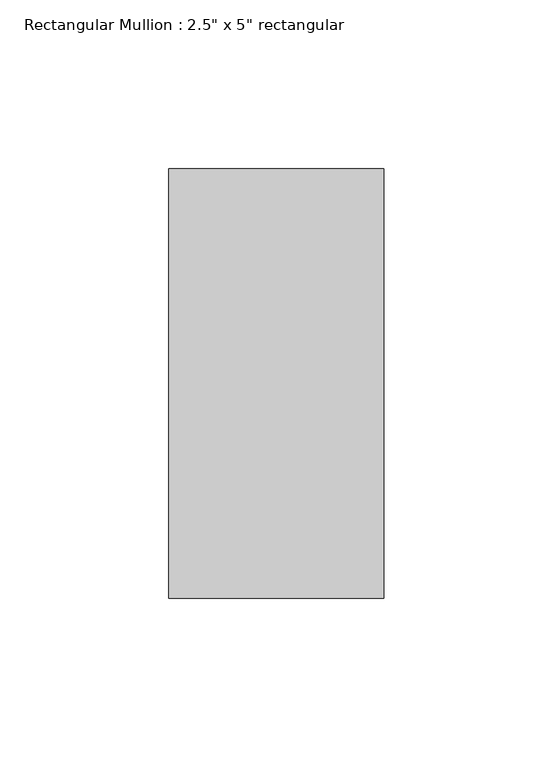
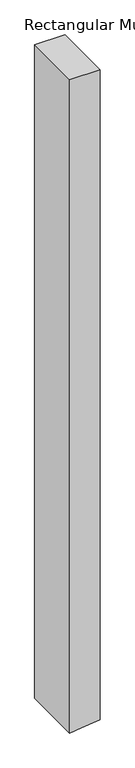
"""IFC4 building model written with IfcOpenShell, lengths in millimetres: member geometry."""

from ifc_helpers import new_model, si_unit, frame, origin, place, context, project, spatial, polyline, outline, extrude, source, transform, mapped, element, save


def member_7a136f0b(model_context):
    return source(origin(), model_context, "Body", "SweptSolid", [
        extrude(outline(polyline([(0.0, 31.75), (0.0, -31.75), (-1443.6356419, -31.75), (-1440.8739255, -7.0583463), (-1436.5332828, 31.75), (0.0, 31.75)])), frame((0.0, -63.5, 0.0), z_axis=(0.0, 1.0, 0.0), x_axis=(0.0, 0.0, 1.0)), (0.0, 0.0, 1.0), 127.0),
    ])


if __name__ == "__main__":
    model = new_model("IFC4")
    model_context = context("Model", 3, world=origin())
    ifc_project = project(units=[si_unit("LENGTHUNIT", "METRE", prefix="MILLI")], contexts=[model_context])
    site = spatial("IfcSite", under=ifc_project)
    building = spatial("IfcBuilding", under=site)
    placement = place(None, origin())
    member_shape = member_7a136f0b(model_context)
    element("IfcMember", 1, ObjectType="Rectangular Mullion : 2.5\" x 5\" rectangular", at=placement, inside=building, context=model_context, shape_type="MappedRepresentation", body=[
        mapped(member_shape, transform((0.0, 0.0, 0.0), x_axis=(1.0, 0.0, 0.0), y_axis=(0.0, 1.0, 0.0), z_axis=(0.0, 0.0, 1.0))),
    ])
    save(model, "model.ifc")
